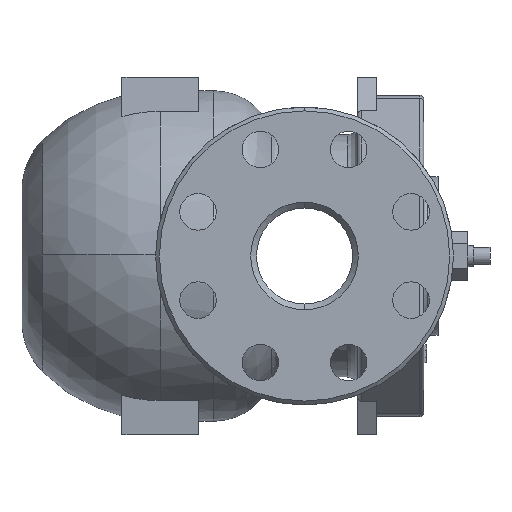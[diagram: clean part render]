
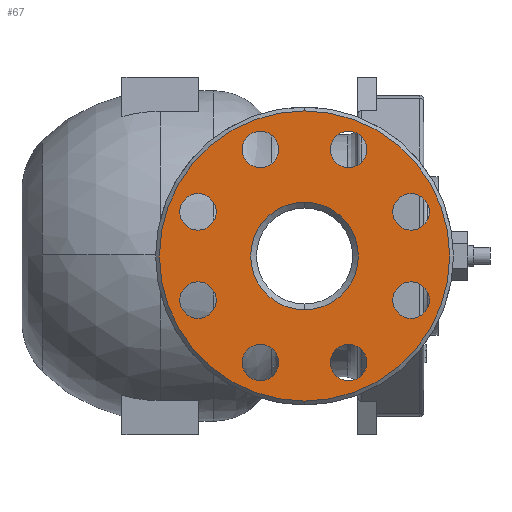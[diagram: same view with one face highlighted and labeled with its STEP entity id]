
A CAD part, left-side view. The second image highlights one B-rep face of the part: STEP entity #67.
In plain terms, the highlighted planar face has unit normal (-1, 0, 0).
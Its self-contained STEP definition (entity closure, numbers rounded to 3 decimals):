
#67=ADVANCED_FACE('',(#526,#527,#528,#529,#530,#531,#532,#533,#534,#535),#525,.T.);
#525=PLANE('',#2595);
#526=FACE_OUTER_BOUND('',#2596,.T.);
#527=FACE_BOUND('',#2597,.T.);
#528=FACE_BOUND('',#2598,.T.);
#529=FACE_BOUND('',#2599,.T.);
#530=FACE_BOUND('',#2600,.T.);
#531=FACE_BOUND('',#2601,.T.);
#532=FACE_BOUND('',#2602,.T.);
#533=FACE_BOUND('',#2603,.T.);
#534=FACE_BOUND('',#2604,.T.);
#535=FACE_BOUND('',#2605,.T.);
#2592=CARTESIAN_POINT('',(-145.,-140.77,-161.));
#2593=DIRECTION('',(-1.,0.,0.));
#2594=DIRECTION('',(0.,0.,1.));
#2595=AXIS2_PLACEMENT_3D('',#2592,#2593,#2594);
#2596=EDGE_LOOP('',(#4491,#4492));
#2597=EDGE_LOOP('',(#4493,#4494));
#2598=EDGE_LOOP('',(#4495,#4496));
#2599=EDGE_LOOP('',(#4497,#4498));
#2600=EDGE_LOOP('',(#4499,#4500));
#2601=EDGE_LOOP('',(#4501,#4502));
#2602=EDGE_LOOP('',(#4503,#4504));
#2603=EDGE_LOOP('',(#4505,#4506));
#2604=EDGE_LOOP('',(#4507,#4508));
#2605=EDGE_LOOP('',(#4509,#4510));
#4491=ORIENTED_EDGE('',*,*,#5577,.T.);
#4492=ORIENTED_EDGE('',*,*,#5578,.T.);
#4493=ORIENTED_EDGE('',*,*,#5579,.T.);
#4494=ORIENTED_EDGE('',*,*,#5580,.T.);
#4495=ORIENTED_EDGE('',*,*,#5581,.T.);
#4496=ORIENTED_EDGE('',*,*,#5582,.T.);
#4497=ORIENTED_EDGE('',*,*,#5583,.T.);
#4498=ORIENTED_EDGE('',*,*,#5584,.T.);
#4499=ORIENTED_EDGE('',*,*,#5585,.T.);
#4500=ORIENTED_EDGE('',*,*,#5586,.T.);
#4501=ORIENTED_EDGE('',*,*,#5587,.T.);
#4502=ORIENTED_EDGE('',*,*,#5588,.T.);
#4503=ORIENTED_EDGE('',*,*,#5589,.T.);
#4504=ORIENTED_EDGE('',*,*,#5590,.T.);
#4505=ORIENTED_EDGE('',*,*,#5591,.T.);
#4506=ORIENTED_EDGE('',*,*,#5592,.T.);
#4507=ORIENTED_EDGE('',*,*,#5593,.T.);
#4508=ORIENTED_EDGE('',*,*,#5594,.T.);
#4509=ORIENTED_EDGE('',*,*,#5595,.T.);
#4510=ORIENTED_EDGE('',*,*,#5596,.T.);
#5577=EDGE_CURVE('',#6656,#6657,#6658,.T.);
#5578=EDGE_CURVE('',#6657,#6656,#6664,.T.);
#5579=EDGE_CURVE('',#6670,#6671,#6672,.T.);
#5580=EDGE_CURVE('',#6671,#6670,#6678,.T.);
#5581=EDGE_CURVE('',#6684,#6685,#6686,.T.);
#5582=EDGE_CURVE('',#6685,#6684,#6692,.T.);
#5583=EDGE_CURVE('',#6698,#6699,#6700,.T.);
#5584=EDGE_CURVE('',#6699,#6698,#6706,.T.);
#5585=EDGE_CURVE('',#6712,#6713,#6714,.T.);
#5586=EDGE_CURVE('',#6713,#6712,#6720,.T.);
#5587=EDGE_CURVE('',#6726,#6727,#6728,.T.);
#5588=EDGE_CURVE('',#6727,#6726,#6734,.T.);
#5589=EDGE_CURVE('',#6740,#6741,#6742,.T.);
#5590=EDGE_CURVE('',#6741,#6740,#6748,.T.);
#5591=EDGE_CURVE('',#6754,#6755,#6756,.T.);
#5592=EDGE_CURVE('',#6755,#6754,#6762,.T.);
#5593=EDGE_CURVE('',#6768,#6769,#6770,.T.);
#5594=EDGE_CURVE('',#6769,#6768,#6776,.T.);
#5595=EDGE_CURVE('',#6782,#6783,#6784,.T.);
#5596=EDGE_CURVE('',#6783,#6782,#6790,.T.);
#6656=VERTEX_POINT('',#10150);
#6657=VERTEX_POINT('',#10151);
#6658=CIRCLE('',#10155,75.5);
#6664=CIRCLE('',#10159,75.5);
#6670=VERTEX_POINT('',#10160);
#6671=VERTEX_POINT('',#10161);
#6672=CIRCLE('',#10165,9.5);
#6678=CIRCLE('',#10169,9.5);
#6684=VERTEX_POINT('',#10170);
#6685=VERTEX_POINT('',#10171);
#6686=CIRCLE('',#10175,9.5);
#6692=CIRCLE('',#10179,9.5);
#6698=VERTEX_POINT('',#10180);
#6699=VERTEX_POINT('',#10181);
#6700=CIRCLE('',#10185,9.5);
#6706=CIRCLE('',#10189,9.5);
#6712=VERTEX_POINT('',#10190);
#6713=VERTEX_POINT('',#10191);
#6714=CIRCLE('',#10195,28.);
#6720=CIRCLE('',#10199,28.);
#6726=VERTEX_POINT('',#10200);
#6727=VERTEX_POINT('',#10201);
#6728=CIRCLE('',#10205,9.5);
#6734=CIRCLE('',#10209,9.5);
#6740=VERTEX_POINT('',#10210);
#6741=VERTEX_POINT('',#10211);
#6742=CIRCLE('',#10215,9.5);
#6748=CIRCLE('',#10219,9.5);
#6754=VERTEX_POINT('',#10220);
#6755=VERTEX_POINT('',#10221);
#6756=CIRCLE('',#10225,9.5);
#6762=CIRCLE('',#10229,9.5);
#6768=VERTEX_POINT('',#10230);
#6769=VERTEX_POINT('',#10231);
#6770=CIRCLE('',#10235,9.5);
#6776=CIRCLE('',#10239,9.5);
#6782=VERTEX_POINT('',#10240);
#6783=VERTEX_POINT('',#10241);
#6784=CIRCLE('',#10245,9.5);
#6790=CIRCLE('',#10249,9.5);
#10150=CARTESIAN_POINT('',(-145.,0.,75.5));
#10151=CARTESIAN_POINT('',(-145.,0.,-75.5));
#10152=CARTESIAN_POINT('',(-145.,0.,0.));
#10153=DIRECTION('',(-1.,0.,0.));
#10154=DIRECTION('',(0.,0.,1.));
#10155=AXIS2_PLACEMENT_3D('',#10152,#10153,#10154);
#10156=CARTESIAN_POINT('',(-145.,0.,0.));
#10157=DIRECTION('',(-1.,0.,0.));
#10158=DIRECTION('',(0.,0.,1.));
#10159=AXIS2_PLACEMENT_3D('',#10156,#10157,#10158);
#10160=CARTESIAN_POINT('',(-145.,-55.433,32.461));
#10161=CARTESIAN_POINT('',(-145.,-55.433,13.461));
#10162=CARTESIAN_POINT('',(-145.,-55.433,22.961));
#10163=DIRECTION('',(1.,0.,0.));
#10164=DIRECTION('',(0.,0.,1.));
#10165=AXIS2_PLACEMENT_3D('',#10162,#10163,#10164);
#10166=CARTESIAN_POINT('',(-145.,-55.433,22.961));
#10167=DIRECTION('',(1.,0.,0.));
#10168=DIRECTION('',(0.,0.,1.));
#10169=AXIS2_PLACEMENT_3D('',#10166,#10167,#10168);
#10170=CARTESIAN_POINT('',(-145.,22.961,64.933));
#10171=CARTESIAN_POINT('',(-145.,22.961,45.933));
#10172=CARTESIAN_POINT('',(-145.,22.961,55.433));
#10173=DIRECTION('',(1.,0.,0.));
#10174=DIRECTION('',(0.,0.,1.));
#10175=AXIS2_PLACEMENT_3D('',#10172,#10173,#10174);
#10176=CARTESIAN_POINT('',(-145.,22.961,55.433));
#10177=DIRECTION('',(1.,0.,0.));
#10178=DIRECTION('',(0.,0.,1.));
#10179=AXIS2_PLACEMENT_3D('',#10176,#10177,#10178);
#10180=CARTESIAN_POINT('',(-145.,55.433,-13.461));
#10181=CARTESIAN_POINT('',(-145.,55.433,-32.461));
#10182=CARTESIAN_POINT('',(-145.,55.433,-22.961));
#10183=DIRECTION('',(1.,0.,0.));
#10184=DIRECTION('',(0.,0.,1.));
#10185=AXIS2_PLACEMENT_3D('',#10182,#10183,#10184);
#10186=CARTESIAN_POINT('',(-145.,55.433,-22.961));
#10187=DIRECTION('',(1.,0.,0.));
#10188=DIRECTION('',(0.,0.,1.));
#10189=AXIS2_PLACEMENT_3D('',#10186,#10187,#10188);
#10190=CARTESIAN_POINT('',(-145.,0.,28.));
#10191=CARTESIAN_POINT('',(-145.,0.,-28.));
#10192=CARTESIAN_POINT('',(-145.,0.,0.));
#10193=DIRECTION('',(1.,0.,0.));
#10194=DIRECTION('',(0.,0.,1.));
#10195=AXIS2_PLACEMENT_3D('',#10192,#10193,#10194);
#10196=CARTESIAN_POINT('',(-145.,0.,0.));
#10197=DIRECTION('',(1.,0.,0.));
#10198=DIRECTION('',(0.,0.,1.));
#10199=AXIS2_PLACEMENT_3D('',#10196,#10197,#10198);
#10200=CARTESIAN_POINT('',(-145.,-22.961,-45.933));
#10201=CARTESIAN_POINT('',(-145.,-22.961,-64.933));
#10202=CARTESIAN_POINT('',(-145.,-22.961,-55.433));
#10203=DIRECTION('',(1.,0.,0.));
#10204=DIRECTION('',(0.,0.,1.));
#10205=AXIS2_PLACEMENT_3D('',#10202,#10203,#10204);
#10206=CARTESIAN_POINT('',(-145.,-22.961,-55.433));
#10207=DIRECTION('',(1.,0.,0.));
#10208=DIRECTION('',(0.,0.,1.));
#10209=AXIS2_PLACEMENT_3D('',#10206,#10207,#10208);
#10210=CARTESIAN_POINT('',(-145.,55.433,32.461));
#10211=CARTESIAN_POINT('',(-145.,55.433,13.461));
#10212=CARTESIAN_POINT('',(-145.,55.433,22.961));
#10213=DIRECTION('',(1.,0.,0.));
#10214=DIRECTION('',(0.,0.,1.));
#10215=AXIS2_PLACEMENT_3D('',#10212,#10213,#10214);
#10216=CARTESIAN_POINT('',(-145.,55.433,22.961));
#10217=DIRECTION('',(1.,0.,0.));
#10218=DIRECTION('',(0.,0.,1.));
#10219=AXIS2_PLACEMENT_3D('',#10216,#10217,#10218);
#10220=CARTESIAN_POINT('',(-145.,-22.961,64.933));
#10221=CARTESIAN_POINT('',(-145.,-22.961,45.933));
#10222=CARTESIAN_POINT('',(-145.,-22.961,55.433));
#10223=DIRECTION('',(1.,0.,0.));
#10224=DIRECTION('',(0.,0.,1.));
#10225=AXIS2_PLACEMENT_3D('',#10222,#10223,#10224);
#10226=CARTESIAN_POINT('',(-145.,-22.961,55.433));
#10227=DIRECTION('',(1.,0.,0.));
#10228=DIRECTION('',(0.,0.,1.));
#10229=AXIS2_PLACEMENT_3D('',#10226,#10227,#10228);
#10230=CARTESIAN_POINT('',(-145.,-55.433,-13.461));
#10231=CARTESIAN_POINT('',(-145.,-55.433,-32.461));
#10232=CARTESIAN_POINT('',(-145.,-55.433,-22.961));
#10233=DIRECTION('',(1.,0.,0.));
#10234=DIRECTION('',(0.,0.,1.));
#10235=AXIS2_PLACEMENT_3D('',#10232,#10233,#10234);
#10236=CARTESIAN_POINT('',(-145.,-55.433,-22.961));
#10237=DIRECTION('',(1.,0.,0.));
#10238=DIRECTION('',(0.,0.,1.));
#10239=AXIS2_PLACEMENT_3D('',#10236,#10237,#10238);
#10240=CARTESIAN_POINT('',(-145.,22.961,-45.933));
#10241=CARTESIAN_POINT('',(-145.,22.961,-64.933));
#10242=CARTESIAN_POINT('',(-145.,22.961,-55.433));
#10243=DIRECTION('',(1.,0.,0.));
#10244=DIRECTION('',(0.,0.,1.));
#10245=AXIS2_PLACEMENT_3D('',#10242,#10243,#10244);
#10246=CARTESIAN_POINT('',(-145.,22.961,-55.433));
#10247=DIRECTION('',(1.,0.,0.));
#10248=DIRECTION('',(0.,0.,1.));
#10249=AXIS2_PLACEMENT_3D('',#10246,#10247,#10248);
